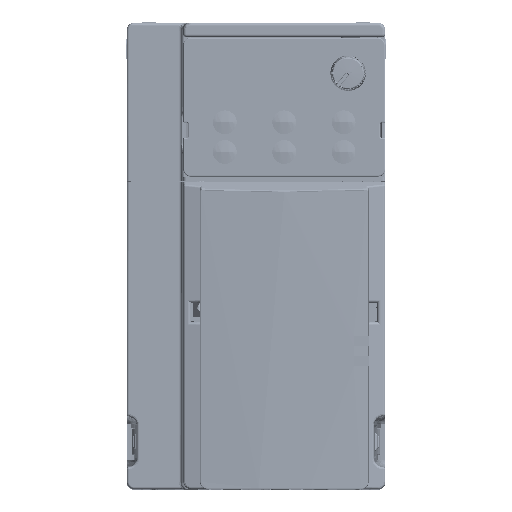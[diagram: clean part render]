
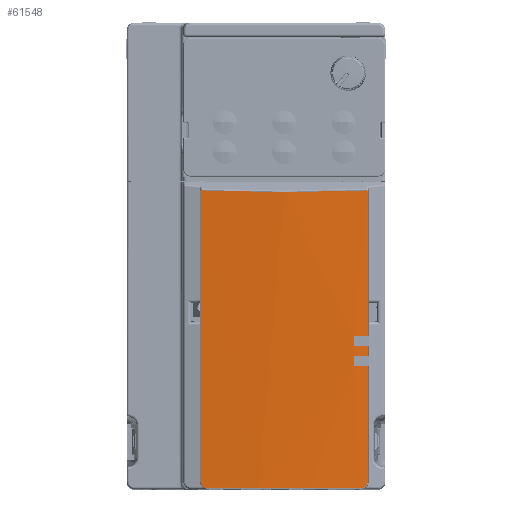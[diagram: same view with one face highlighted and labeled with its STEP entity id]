
A CAD part, top view. The second image highlights one B-rep face of the part: STEP entity #61548.
In plain terms, the highlighted cylindrical face has radius 370 mm (diameter 740 mm), a partial arc.
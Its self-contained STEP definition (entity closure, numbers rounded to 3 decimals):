
#49320=CARTESIAN_POINT('',(37.506,100.56,150.939));
#49325=DIRECTION('',(0.,1.,0.));
#49326=VECTOR('',#49325,48.634);
#49327=CARTESIAN_POINT('',(37.567,51.655,150.934));
#49328=LINE('',#49327,#49326);
#49347=CARTESIAN_POINT('',(-18.567,100.289,
150.934));
#49348=CARTESIAN_POINT('',(-18.567,100.322,
150.934));
#49349=CARTESIAN_POINT('',(-18.562,100.387,
150.934));
#49350=CARTESIAN_POINT('',(-18.541,100.478,
150.936));
#49351=CARTESIAN_POINT('',(-18.519,100.533,
150.938));
#49352=CARTESIAN_POINT('',(-18.506,100.56,
150.939));
#49357=CARTESIAN_POINT('',(-18.506,100.56,
150.939));
#49358=CARTESIAN_POINT('',(-12.297,100.287,
151.41));
#49359=CARTESIAN_POINT('',(0.148,99.925,
152.039));
#49360=CARTESIAN_POINT('',(18.852,99.924,152.039));
#49361=CARTESIAN_POINT('',(31.297,100.287,151.41));
#49362=CARTESIAN_POINT('',(37.506,100.56,150.939));
#49367=CARTESIAN_POINT('',(37.506,100.56,150.939));
#49368=CARTESIAN_POINT('',(37.519,100.533,150.938));
#49369=CARTESIAN_POINT('',(37.541,100.478,150.936));
#49370=CARTESIAN_POINT('',(37.562,100.387,150.934));
#49371=CARTESIAN_POINT('',(37.567,100.322,150.934));
#49372=CARTESIAN_POINT('',(37.567,100.289,150.934));
#49377=DIRECTION('',(0.,-1.,0.));
#49378=VECTOR('',#49377,3.407);
#49379=CARTESIAN_POINT('',(32.9,51.657,151.259));
#49380=LINE('',#49379,#49378);
#49384=DIRECTION('',(0.,-1.,0.));
#49385=VECTOR('',#49384,3.5);
#49386=CARTESIAN_POINT('',(37.567,48.25,150.934));
#49387=LINE('',#49386,#49385);
#49391=DIRECTION('',(0.,-1.,
0.));
#49392=VECTOR('',#49391,3.414);
#49393=CARTESIAN_POINT('',(32.9,44.75,151.259));
#49394=LINE('',#49393,#49392);
#49398=DIRECTION('',(0.,-1.,0.));
#49399=VECTOR('',#49398,38.839);
#49400=CARTESIAN_POINT('',(37.567,41.339,150.934));
#49401=LINE('',#49400,#49399);
#49405=CARTESIAN_POINT('',(37.567,2.5,150.934));
#49406=CARTESIAN_POINT('',(37.566,2.306,150.934));
#49407=CARTESIAN_POINT('',(37.516,1.933,150.938));
#49408=CARTESIAN_POINT('',(37.29,1.39,150.955));
#49409=CARTESIAN_POINT('',(36.945,0.935,
150.981));
#49410=CARTESIAN_POINT('',(36.483,0.581,
151.015));
#49411=CARTESIAN_POINT('',(35.94,0.354,
151.054));
#49412=CARTESIAN_POINT('',(35.555,0.302,
151.082));
#49413=CARTESIAN_POINT('',(35.354,0.3,
151.096));
#49418=CARTESIAN_POINT('',(-16.354,0.3,
151.096));
#49419=CARTESIAN_POINT('',(-16.552,0.302,
151.082));
#49420=CARTESIAN_POINT('',(-16.935,0.353,
151.055));
#49421=CARTESIAN_POINT('',(-17.476,0.577,
151.015));
#49422=CARTESIAN_POINT('',(-17.941,0.93,
150.981));
#49423=CARTESIAN_POINT('',(-18.289,1.387,
150.955));
#49424=CARTESIAN_POINT('',(-18.516,1.931,
150.938));
#49425=CARTESIAN_POINT('',(-18.566,2.306,
150.934));
#49426=CARTESIAN_POINT('',(-18.567,2.5,
150.934));
#49431=DIRECTION('',(0.,1.,0.));
#49432=VECTOR('',#49431,97.789);
#49433=CARTESIAN_POINT('',(-18.567,2.5,
150.934));
#49434=LINE('',#49433,#49432);
#50389=CARTESIAN_POINT('',(32.9,51.657,151.259));
#50390=CARTESIAN_POINT('',(33.419,51.657,151.226));
#50391=CARTESIAN_POINT('',(34.456,51.658,151.158));
#50392=CARTESIAN_POINT('',(36.012,51.654,151.05));
#50393=CARTESIAN_POINT('',(37.049,51.655,150.973));
#50394=CARTESIAN_POINT('',(37.567,51.655,150.934));
#50567=CARTESIAN_POINT('',(9.5,44.75,-218.));
#50568=DIRECTION('',(0.,1.,0.));
#50569=DIRECTION('',(0.063,0.,0.998));
#50570=AXIS2_PLACEMENT_3D('',#50567,#50568,#50569);
#50708=CARTESIAN_POINT('',(9.5,48.25,-218.));
#50709=DIRECTION('',(0.,-1.,0.));
#50710=DIRECTION('',(0.076,0.,0.997));
#50711=AXIS2_PLACEMENT_3D('',#50708,#50709,#50710);
#50866=CARTESIAN_POINT('',(37.567,41.339,150.934));
#50867=CARTESIAN_POINT('',(37.049,41.339,150.973));
#50868=CARTESIAN_POINT('',(36.012,41.34,151.05));
#50869=CARTESIAN_POINT('',(34.456,41.336,151.158));
#50870=CARTESIAN_POINT('',(33.419,41.337,151.226));
#50871=CARTESIAN_POINT('',(32.9,41.336,151.259));
#55559=CARTESIAN_POINT('',(9.5,0.3,-218.));
#55560=DIRECTION('',(0.,1.,0.));
#55561=DIRECTION('',(-0.07,0.,0.998));
#55562=AXIS2_PLACEMENT_3D('',#55559,#55560,#55561);
#59066=VERTEX_POINT('',#49320);
#59067=CARTESIAN_POINT('',(37.567,100.289,150.934));
#59068=VERTEX_POINT('',#59067);
#59069=CARTESIAN_POINT('',(37.567,51.655,150.934));
#59070=VERTEX_POINT('',#59069);
#59073=VERTEX_POINT('',#49347);
#59074=VERTEX_POINT('',#49352);
#59075=VERTEX_POINT('',#50389);
#59076=CARTESIAN_POINT('',(32.9,48.25,151.259));
#59077=VERTEX_POINT('',#59076);
#59078=CARTESIAN_POINT('',(37.567,48.25,150.934));
#59079=VERTEX_POINT('',#59078);
#59080=CARTESIAN_POINT('',(37.567,44.75,150.934));
#59081=VERTEX_POINT('',#59080);
#59082=CARTESIAN_POINT('',(32.9,44.75,151.259));
#59083=VERTEX_POINT('',#59082);
#59084=CARTESIAN_POINT('',(32.9,41.336,151.259));
#59085=VERTEX_POINT('',#59084);
#59086=VERTEX_POINT('',#50866);
#59087=CARTESIAN_POINT('',(37.567,2.5,150.934));
#59088=VERTEX_POINT('',#59087);
#59089=VERTEX_POINT('',#49413);
#59090=CARTESIAN_POINT('',(-16.354,0.3,151.096));
#59091=VERTEX_POINT('',#59090);
#59092=VERTEX_POINT('',#49426);
#61511=CARTESIAN_POINT('',(9.5,0.,-218.));
#61512=DIRECTION('',(0.,1.,0.));
#61513=DIRECTION('',(-1.,0.,0.));
#61514=AXIS2_PLACEMENT_3D('',#61511,#61512,#61513);
#61515=CYLINDRICAL_SURFACE('',#61514,370.);
#61517=ORIENTED_EDGE('',*,*,#61516,.T.);
#61519=ORIENTED_EDGE('',*,*,#61518,.T.);
#61520=ORIENTED_EDGE('',*,*,#61491,.T.);
#61521=ORIENTED_EDGE('',*,*,#61501,.F.);
#61523=ORIENTED_EDGE('',*,*,#61522,.F.);
#61525=ORIENTED_EDGE('',*,*,#61524,.T.);
#61527=ORIENTED_EDGE('',*,*,#61526,.F.);
#61529=ORIENTED_EDGE('',*,*,#61528,.T.);
#61531=ORIENTED_EDGE('',*,*,#61530,.F.);
#61533=ORIENTED_EDGE('',*,*,#61532,.T.);
#61535=ORIENTED_EDGE('',*,*,#61534,.F.);
#61537=ORIENTED_EDGE('',*,*,#61536,.T.);
#61539=ORIENTED_EDGE('',*,*,#61538,.T.);
#61541=ORIENTED_EDGE('',*,*,#61540,.F.);
#61543=ORIENTED_EDGE('',*,*,#61542,.T.);
#61545=ORIENTED_EDGE('',*,*,#61544,.T.);
#61546=EDGE_LOOP('',(#61517,#61519,#61520,#61521,#61523,#61525,#61527,#61529,
#61531,#61533,#61535,#61537,#61539,#61541,#61543,#61545));
#61547=FACE_OUTER_BOUND('',#61546,.F.);
#49353=B_SPLINE_CURVE_WITH_KNOTS('',3,(#49347,#49348,#49349,#49350,#49351,
#49352),.UNSPECIFIED.,.F.,.F.,(4,1,1,4),(0.,0.333,
0.667,1.),.UNSPECIFIED.);
#49363=B_SPLINE_CURVE_WITH_KNOTS('',3,(#49357,#49358,#49359,#49360,#49361,
#49362),.UNSPECIFIED.,.F.,.F.,(4,1,1,4),(0.,0.333,
0.667,1.),.UNSPECIFIED.);
#49373=B_SPLINE_CURVE_WITH_KNOTS('',3,(#49367,#49368,#49369,#49370,#49371,
#49372),.UNSPECIFIED.,.F.,.F.,(4,1,1,4),(0.,0.333,
0.667,1.),.UNSPECIFIED.);
#49414=B_SPLINE_CURVE_WITH_KNOTS('',3,(#49405,#49406,#49407,#49408,#49409,
#49410,#49411,#49412,#49413),.UNSPECIFIED.,.F.,.F.,(4,1,1,1,1,1,4),(0.,
0.167,0.333,0.5,0.667,0.833,
1.),.UNSPECIFIED.);
#49427=B_SPLINE_CURVE_WITH_KNOTS('',3,(#49418,#49419,#49420,#49421,#49422,
#49423,#49424,#49425,#49426),.UNSPECIFIED.,.F.,.F.,(4,1,1,1,1,1,4),(0.,
0.167,0.333,0.5,0.667,0.833,
1.),.UNSPECIFIED.);
#50395=B_SPLINE_CURVE_WITH_KNOTS('',3,(#50389,#50390,#50391,#50392,#50393,
#50394),.UNSPECIFIED.,.F.,.F.,(4,1,1,4),(0.,0.333,
0.667,1.),.UNSPECIFIED.);
#50571=CIRCLE('',#50570,370.);
#50712=CIRCLE('',#50711,370.);
#50872=B_SPLINE_CURVE_WITH_KNOTS('',3,(#50866,#50867,#50868,#50869,#50870,
#50871),.UNSPECIFIED.,.F.,.F.,(4,1,1,4),(0.,0.333,
0.667,1.),.UNSPECIFIED.);
#55563=CIRCLE('',#55562,370.);
#61491=EDGE_CURVE('',#59066,#59068,#49373,.T.);
#61501=EDGE_CURVE('',#59070,#59068,#49328,.T.);
#61516=EDGE_CURVE('',#59073,#59074,#49353,.T.);
#61518=EDGE_CURVE('',#59074,#59066,#49363,.T.);
#61522=EDGE_CURVE('',#59075,#59070,#50395,.T.);
#61524=EDGE_CURVE('',#59075,#59077,#49380,.T.);
#61526=EDGE_CURVE('',#59079,#59077,#50712,.T.);
#61528=EDGE_CURVE('',#59079,#59081,#49387,.T.);
#61530=EDGE_CURVE('',#59083,#59081,#50571,.T.);
#61532=EDGE_CURVE('',#59083,#59085,#49394,.T.);
#61534=EDGE_CURVE('',#59086,#59085,#50872,.T.);
#61536=EDGE_CURVE('',#59086,#59088,#49401,.T.);
#61538=EDGE_CURVE('',#59088,#59089,#49414,.T.);
#61540=EDGE_CURVE('',#59091,#59089,#55563,.T.);
#61542=EDGE_CURVE('',#59091,#59092,#49427,.T.);
#61544=EDGE_CURVE('',#59092,#59073,#49434,.T.);
#61548=ADVANCED_FACE('',(#61547),#61515,.T.);
